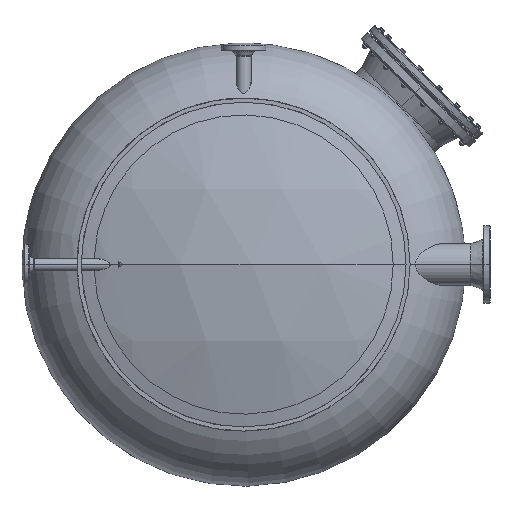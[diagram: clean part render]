
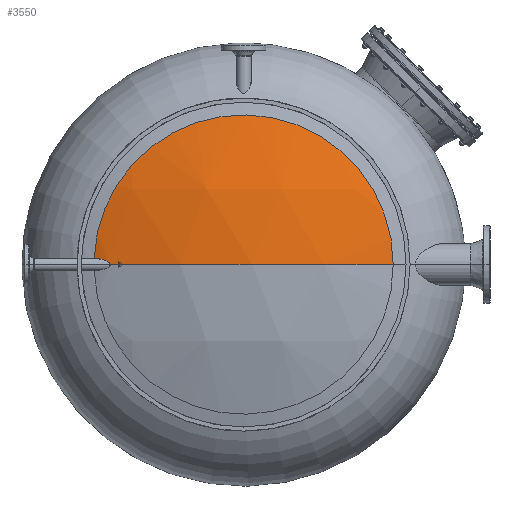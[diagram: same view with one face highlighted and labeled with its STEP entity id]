
A CAD part, front view. The second image highlights one B-rep face of the part: STEP entity #3550.
In plain terms, the highlighted spherical face has radius 1612.5 mm.
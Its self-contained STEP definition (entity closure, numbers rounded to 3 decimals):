
#31 = CARTESIAN_POINT ( 'NONE',  ( 99.141, 140.855, -598.03 ) ) ;
#421 = CARTESIAN_POINT ( 'NONE',  ( 122.039, 133.218, -615.057 ) ) ;
#2781 = CARTESIAN_POINT ( 'NONE',  ( 615., 1668.518, -615.057 ) ) ;
#3550 = ADVANCED_FACE ( 'NONE', ( #98519 ), #18678, .T. ) ;
#5910 = CARTESIAN_POINT ( 'NONE',  ( 62.824, 153.677, -592.378 ) ) ;
#7031 = CARTESIAN_POINT ( 'NONE',  ( 99.199, 140.835, -598.048 ) ) ;
#7645 = CARTESIAN_POINT ( 'NONE',  ( 119.024, 134.204, -608.423 ) ) ;
#8218 = CARTESIAN_POINT ( 'NONE',  ( 117.325, 134.762, -606.801 ) ) ;
#9361 = CARTESIAN_POINT ( 'NONE',  ( 117.77, 134.616, -607.189 ) ) ;
#9913 = DIRECTION ( 'NONE',  ( 1., 0., 0. ) ) ;
#10247 = VERTEX_POINT ( 'NONE', #421 ) ;
#10655 = CARTESIAN_POINT ( 'NONE',  ( 1167.641, 153.677, -615.057 ) ) ;
#13486 = CARTESIAN_POINT ( 'NONE',  ( 85.29, 145.639, -594.721 ) ) ;
#16346 = CARTESIAN_POINT ( 'NONE',  ( 121.167, 133.503, -611.466 ) ) ;
#16962 = CARTESIAN_POINT ( 'NONE',  ( 88.269, 144.599, -595.286 ) ) ;
#17517 = CARTESIAN_POINT ( 'NONE',  ( 122.039, 133.218, -615.057 ) ) ;
#18098 = CARTESIAN_POINT ( 'NONE',  ( 98.93, 140.927, -597.967 ) ) ;
#18132 = CIRCLE ( 'NONE', #96319, 552.641 ) ;
#18678 = SPHERICAL_SURFACE ( 'NONE', #53489, 1612.5 ) ;
#19576 = EDGE_CURVE ( 'NONE', #45316, #10247, #72066, .T. ) ;
#21039 = DIRECTION ( 'NONE',  ( 1., 0., 0. ) ) ;
#22248 = CARTESIAN_POINT ( 'NONE',  ( 81.981, 146.805, -594.202 ) ) ;
#23977 = CARTESIAN_POINT ( 'NONE',  ( 80.834, 147.209, -594.027 ) ) ;
#24551 = CARTESIAN_POINT ( 'NONE',  ( 93.914, 142.646, -596.58 ) ) ;
#25134 = CARTESIAN_POINT ( 'NONE',  ( 119.772, 133.959, -609.261 ) ) ;
#25697 = CARTESIAN_POINT ( 'NONE',  ( 113.599, 135.993, -604.156 ) ) ;
#26274 = CARTESIAN_POINT ( 'NONE',  ( 121.962, 133.243, -613.817 ) ) ;
#30987 = CARTESIAN_POINT ( 'NONE',  ( 75.969, 148.934, -593.379 ) ) ;
#31310 = DIRECTION ( 'NONE',  ( 0., 0., 1. ) ) ;
#33279 = CARTESIAN_POINT ( 'NONE',  ( 115.902, 135.231, -605.655 ) ) ;
#34431 = CARTESIAN_POINT ( 'NONE',  ( 99.171, 140.844, -598.04 ) ) ;
#34994 = CARTESIAN_POINT ( 'NONE',  ( 121.248, 133.476, -611.645 ) ) ;
#35588 = CARTESIAN_POINT ( 'NONE',  ( 119.336, 134.102, -608.768 ) ) ;
#39735 = EDGE_LOOP ( 'NONE', ( #51774, #65740, #41586 ) ) ;
#39758 = EDGE_CURVE ( 'NONE', #10247, #43508, #71867, .T. ) ;
#41423 = CARTESIAN_POINT ( 'NONE',  ( 66.228, 152.434, -592.511 ) ) ;
#41586 = ORIENTED_EDGE ( 'NONE', *, *, #41973, .T. ) ;
#41973 = EDGE_CURVE ( 'NONE', #43508, #45316, #18132, .T. ) ;
#42546 = CARTESIAN_POINT ( 'NONE',  ( 121.235, 133.48, -611.616 ) ) ;
#43109 = CARTESIAN_POINT ( 'NONE',  ( 121.704, 133.327, -612.691 ) ) ;
#43508 = VERTEX_POINT ( 'NONE', #10655 ) ;
#43692 = CARTESIAN_POINT ( 'NONE',  ( 119.264, 134.125, -608.687 ) ) ;
#44265 = CARTESIAN_POINT ( 'NONE',  ( 98.083, 141.216, -597.714 ) ) ;
#45316 = VERTEX_POINT ( 'NONE', #53407 ) ;
#49016 = CARTESIAN_POINT ( 'NONE',  ( 69.543, 151.236, -592.736 ) ) ;
#51774 = ORIENTED_EDGE ( 'NONE', *, *, #19576, .T. ) ;
#51892 = CARTESIAN_POINT ( 'NONE',  ( 121.208, 133.489, -611.556 ) ) ;
#52495 = CARTESIAN_POINT ( 'NONE',  ( 104.794, 138.935, -599.897 ) ) ;
#53088 = CARTESIAN_POINT ( 'NONE',  ( 96.939, 141.607, -597.385 ) ) ;
#53180 = AXIS2_PLACEMENT_3D ( 'NONE', #2781, #31310, #75079 ) ;
#53407 = CARTESIAN_POINT ( 'NONE',  ( 62.824, 153.677, -592.378 ) ) ;
#53489 = AXIS2_PLACEMENT_3D ( 'NONE', #54235, #89828, #9913 ) ;
#53640 = CARTESIAN_POINT ( 'NONE',  ( 108.404, 137.723, -601.431 ) ) ;
#54235 = CARTESIAN_POINT ( 'NONE',  ( 615., 1668.518, -615.057 ) ) ;
#57790 = CARTESIAN_POINT ( 'NONE',  ( 82.076, 146.771, -594.217 ) ) ;
#60100 = CARTESIAN_POINT ( 'NONE',  ( 113.646, 135.977, -604.185 ) ) ;
#60684 = CARTESIAN_POINT ( 'NONE',  ( 113.443, 136.044, -604.062 ) ) ;
#61259 = CARTESIAN_POINT ( 'NONE',  ( 118.693, 134.312, -608.074 ) ) ;
#61840 = CARTESIAN_POINT ( 'NONE',  ( 119.185, 134.151, -608.599 ) ) ;
#62432 = CARTESIAN_POINT ( 'NONE',  ( 120.846, 133.608, -610.833 ) ) ;
#65740 = ORIENTED_EDGE ( 'NONE', *, *, #39758, .T. ) ;
#66566 = CARTESIAN_POINT ( 'NONE',  ( 81.838, 146.855, -594.18 ) ) ;
#68294 = CARTESIAN_POINT ( 'NONE',  ( 79.487, 147.685, -593.831 ) ) ;
#68868 = CARTESIAN_POINT ( 'NONE',  ( 112.809, 136.255, -603.686 ) ) ;
#70032 = CARTESIAN_POINT ( 'NONE',  ( 109.543, 137.342, -601.959 ) ) ;
#70621 = CARTESIAN_POINT ( 'NONE',  ( 111.938, 136.544, -603.191 ) ) ;
#71867 = CIRCLE ( 'NONE', #53180, 1612.5 ) ;
#72066 = B_SPLINE_CURVE_WITH_KNOTS ( 'NONE', 3,
 ( #5910, #41423, #49016, #112629, #30987, #84650, #68294, #23977, #95095, #66566, #22248, #57790, #93353, #13486, #16962, #78725, #24551, #105000, #53088, #44265, #87544, #18098, #79299, #31, #34431, #114341, #7031, #79896, #52495, #53640, #70032, #96798, #70621, #68868, #106163, #60684, #105589, #25697, #88115, #95639, #97956, #60100, #89251, #33279, #8218, #9361, #113192, #61259, #7645, #61840, #43692, #86958, #97371, #114929, #35588, #25134, #96215, #77584, #62432, #106721, #16346, #51892, #42546, #34994, #43109, #26274, #17517 ),
 .UNSPECIFIED., .F., .F.,
 ( 4, 2, 2, 1, 1, 1, 1, 2, 2, 2, 2, 1, 1, 1, 1, 1, 1, 2, 2, 2, 2, 1, 1, 1, 1, 1, 1, 1, 2, 2, 2, 2, 1, 1, 1, 1, 1, 2, 2, 2, 1, 1, 1, 2, 2, 4 ),
 ( 0., 0.125, 0.187, 0.219, 0.234, 0.242, 0.246, 0.248, 0.25, 0.375, 0.437, 0.469, 0.484, 0.492, 0.496, 0.498, 0.499, 0.5, 0.5, 0.625, 0.687, 0.719, 0.734, 0.742, 0.746, 0.748, 0.749, 0.75, 0.75, 0.75, 0.812, 0.844, 0.859, 0.867, 0.871, 0.873, 0.874, 0.875, 0.875, 0.906, 0.922, 0.93, 0.934, 0.936, 0.937, 1. ),
 .UNSPECIFIED. ) ;
#75079 = DIRECTION ( 'NONE',  ( 0., -1., 0. ) ) ;
#77584 = CARTESIAN_POINT ( 'NONE',  ( 120.627, 133.679, -610.471 ) ) ;
#78725 = CARTESIAN_POINT ( 'NONE',  ( 92.529, 143.123, -596.243 ) ) ;
#79299 = CARTESIAN_POINT ( 'NONE',  ( 99.071, 140.879, -598.009 ) ) ;
#79896 = CARTESIAN_POINT ( 'NONE',  ( 102.131, 139.835, -598.941 ) ) ;
#84618 = CARTESIAN_POINT ( 'NONE',  ( 615., 153.677, -615.057 ) ) ;
#84650 = CARTESIAN_POINT ( 'NONE',  ( 78.32, 148.099, -593.675 ) ) ;
#86958 = CARTESIAN_POINT ( 'NONE',  ( 119.304, 134.112, -608.731 ) ) ;
#87544 = CARTESIAN_POINT ( 'NONE',  ( 98.649, 141.023, -597.882 ) ) ;
#88115 = CARTESIAN_POINT ( 'NONE',  ( 113.625, 135.984, -604.172 ) ) ;
#89251 = CARTESIAN_POINT ( 'NONE',  ( 114.836, 135.583, -604.912 ) ) ;
#89828 = DIRECTION ( 'NONE',  ( 0., 0., -1. ) ) ;
#93353 = CARTESIAN_POINT ( 'NONE',  ( 82.123, 146.755, -594.224 ) ) ;
#95095 = CARTESIAN_POINT ( 'NONE',  ( 81.504, 146.973, -594.128 ) ) ;
#95639 = CARTESIAN_POINT ( 'NONE',  ( 113.636, 135.98, -604.179 ) ) ;
#96215 = CARTESIAN_POINT ( 'NONE',  ( 120.147, 133.836, -609.746 ) ) ;
#96319 = AXIS2_PLACEMENT_3D ( 'NONE', #84618, #100925, #21039 ) ;
#96798 = CARTESIAN_POINT ( 'NONE',  ( 111.156, 136.804, -602.776 ) ) ;
#97371 = CARTESIAN_POINT ( 'NONE',  ( 119.32, 134.107, -608.75 ) ) ;
#97956 = CARTESIAN_POINT ( 'NONE',  ( 113.644, 135.978, -604.184 ) ) ;
#98519 = FACE_OUTER_BOUND ( 'NONE', #39735, .T. ) ;
#100925 = DIRECTION ( 'NONE',  ( 0., -1., 0. ) ) ;
#105000 = CARTESIAN_POINT ( 'NONE',  ( 95.94, 141.95, -597.112 ) ) ;
#105589 = CARTESIAN_POINT ( 'NONE',  ( 113.547, 136.01, -604.125 ) ) ;
#106163 = CARTESIAN_POINT ( 'NONE',  ( 113.233, 136.114, -603.936 ) ) ;
#106721 = CARTESIAN_POINT ( 'NONE',  ( 121.066, 133.536, -611.255 ) ) ;
#112629 = CARTESIAN_POINT ( 'NONE',  ( 74.379, 149.502, -593.202 ) ) ;
#113192 = CARTESIAN_POINT ( 'NONE',  ( 118.393, 134.411, -607.778 ) ) ;
#114341 = CARTESIAN_POINT ( 'NONE',  ( 99.191, 140.838, -598.046 ) ) ;
#114929 = CARTESIAN_POINT ( 'NONE',  ( 119.332, 134.103, -608.763 ) ) ;
